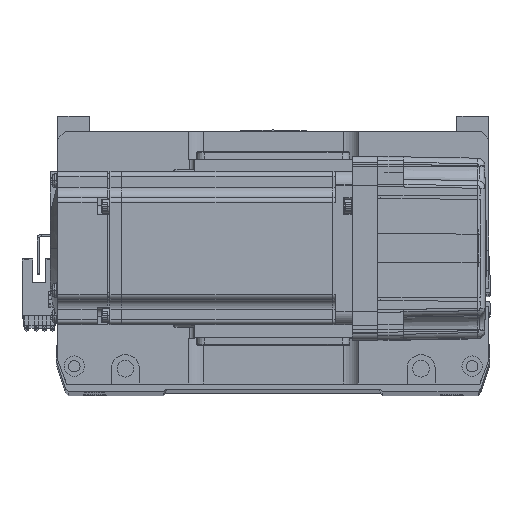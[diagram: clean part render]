
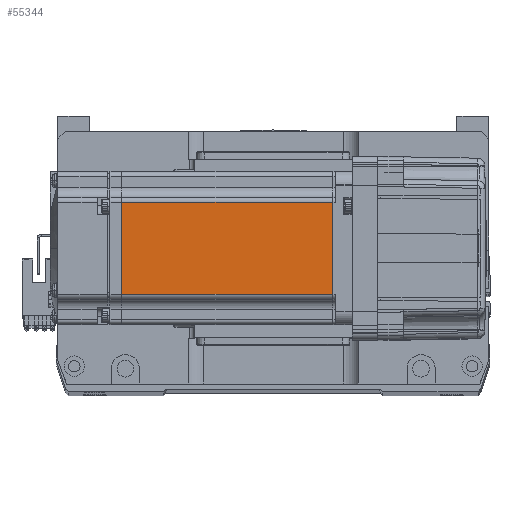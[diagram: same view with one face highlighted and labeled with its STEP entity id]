
A CAD part, top view. The second image highlights one B-rep face of the part: STEP entity #55344.
In plain terms, the highlighted planar face has unit normal (0, 0, 1).
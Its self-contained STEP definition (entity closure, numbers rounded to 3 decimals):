
#2230 = VECTOR ( 'NONE', #45641, 1000. ) ;
#3746 = LINE ( 'NONE', #17351, #40582 ) ;
#4101 = EDGE_CURVE ( 'NONE', #18399, #43510, #16397, .T. ) ;
#4804 = CARTESIAN_POINT ( 'NONE',  ( -7.75, -18., 30. ) ) ;
#6063 = FACE_OUTER_BOUND ( 'NONE', #9786, .T. ) ;
#9577 = CARTESIAN_POINT ( 'NONE',  ( -90.45, -18., 30. ) ) ;
#9786 = EDGE_LOOP ( 'NONE', ( #14369, #19105, #19975, #23999 ) ) ;
#10700 = VERTEX_POINT ( 'NONE', #41121 ) ;
#13289 = DIRECTION ( 'NONE',  ( 0., -1., 0. ) ) ;
#14369 = ORIENTED_EDGE ( 'NONE', *, *, #17637, .F. ) ;
#15419 = PLANE ( 'NONE',  #22651 ) ;
#16397 = LINE ( 'NONE', #22705, #60722 ) ;
#17351 = CARTESIAN_POINT ( 'NONE',  ( -90.45, 0., 30. ) ) ;
#17637 = EDGE_CURVE ( 'NONE', #10700, #18399, #58541, .T. ) ;
#18399 = VERTEX_POINT ( 'NONE', #4804 ) ;
#19105 = ORIENTED_EDGE ( 'NONE', *, *, #34853, .T. ) ;
#19376 = DIRECTION ( 'NONE',  ( 0., 0., 1. ) ) ;
#19794 = DIRECTION ( 'NONE',  ( 1., 0., 0. ) ) ;
#19975 = ORIENTED_EDGE ( 'NONE', *, *, #49883, .T. ) ;
#22177 = CARTESIAN_POINT ( 'NONE',  ( -6.5, 18., 30. ) ) ;
#22651 = AXIS2_PLACEMENT_3D ( 'NONE', #29623, #19376, #19794 ) ;
#22705 = CARTESIAN_POINT ( 'NONE',  ( -6.5, -18., 30. ) ) ;
#23999 = ORIENTED_EDGE ( 'NONE', *, *, #4101, .F. ) ;
#29623 = CARTESIAN_POINT ( 'NONE',  ( -6.5, -25., 30. ) ) ;
#30788 = LINE ( 'NONE', #22177, #2230 ) ;
#34853 = EDGE_CURVE ( 'NONE', #10700, #44466, #30788, .T. ) ;
#40582 = VECTOR ( 'NONE', #51336, 1000. ) ;
#41121 = CARTESIAN_POINT ( 'NONE',  ( -7.75, 18., 30. ) ) ;
#41601 = CARTESIAN_POINT ( 'NONE',  ( -7.75, 0., 30. ) ) ;
#42437 = DIRECTION ( 'NONE',  ( -1., 0., 0. ) ) ;
#43500 = VECTOR ( 'NONE', #13289, 1000. ) ;
#43510 = VERTEX_POINT ( 'NONE', #9577 ) ;
#44466 = VERTEX_POINT ( 'NONE', #57800 ) ;
#45641 = DIRECTION ( 'NONE',  ( -1., 0., 0. ) ) ;
#49883 = EDGE_CURVE ( 'NONE', #44466, #43510, #3746, .T. ) ;
#51336 = DIRECTION ( 'NONE',  ( 0., -1., 0. ) ) ;
#55344 = ADVANCED_FACE ( 'NONE', ( #6063 ), #15419, .T. ) ;
#57800 = CARTESIAN_POINT ( 'NONE',  ( -90.45, 18., 30. ) ) ;
#58541 = LINE ( 'NONE', #41601, #43500 ) ;
#60722 = VECTOR ( 'NONE', #42437, 1000. ) ;
